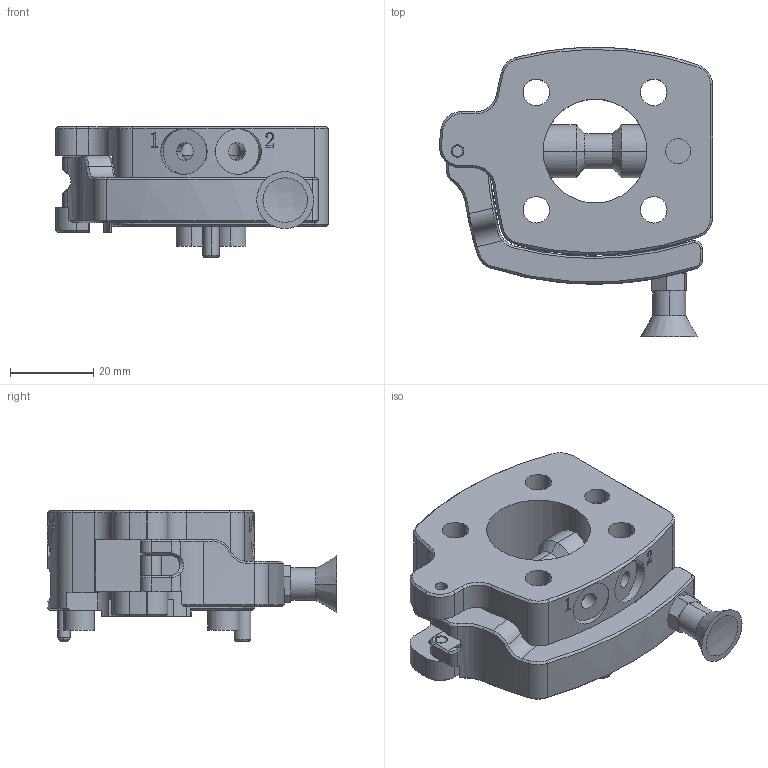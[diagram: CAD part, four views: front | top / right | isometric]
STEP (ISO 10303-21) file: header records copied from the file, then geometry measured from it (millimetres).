
FILE_DESCRIPTION (( 'STEP AP203' ), '1' );
FILE_NAME ('QC-09R.STEP', '2025-01-06T11:26:40', ( 'Windows User' ), ( 'P R C' ), 'SwSTEP 2.0', 'SolidWorks 2018', '' );
FILE_SCHEMA (( 'CONFIG_CONTROL_DESIGN' ));
Length unit declared in the file: millimetre
Products named in the file (1): QC-09R
Bounding box: 65.78 x 69.64 x 31.5 mm (x, y, z)
Surface area: 20516.4 mm2 (no closed solid volume)
Topology: 0 solids, 11 shells, 555 faces, 1411 edges, 885 vertices
Faces by surface type: cylinder 197, plane 156, cone 120, bspline 82
Entity records: 26496 total; most frequent: CARTESIAN_POINT 13165, DIRECTION 2789, ORIENTED_EDGE 2780, EDGE_CURVE 1397, AXIS2_PLACEMENT_3D 1096, VERTEX_POINT 883, CIRCLE 622, EDGE_LOOP 617
